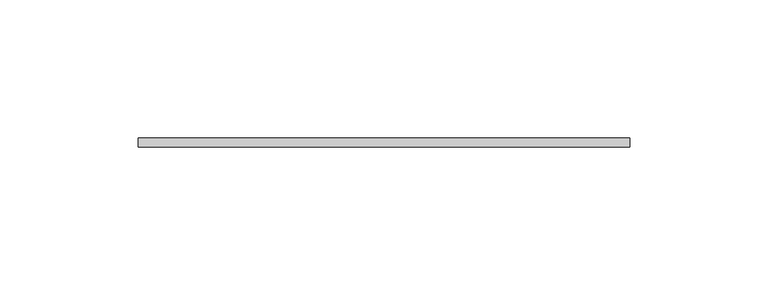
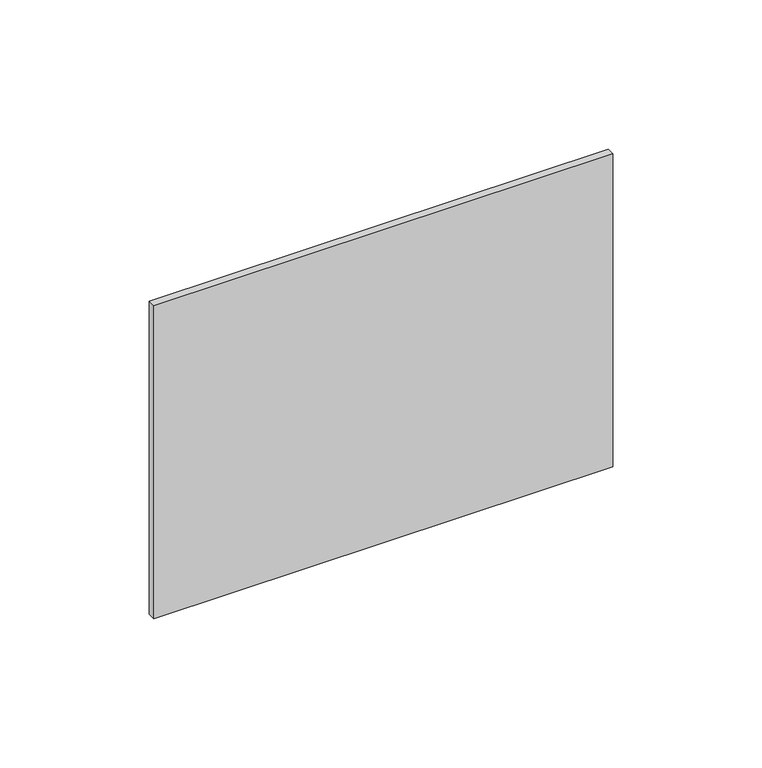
"""IFC4 building model written with IfcOpenShell, lengths in millimetres: proxy geometry, ASHLEY DUO AIR (VISUAL ONLY)."""

import ifcopenshell
import ifcopenshell.guid

model = None  # the IFC model being written
_history = None  # IfcOwnerHistory: only IFC2X3 demands one
_inside = {}  # id of a spatial element -> (the spatial element, [elements in it])
_under = {}  # id of a project, library or spatial element -> (it, [spatial elements below it])
_declared = {}  # id of a project -> (the project, [libraries it declares])
_typed = {}  # id of a type object -> (the type object, [elements of that type])
_made_of = {}  # id of a material, layer set ... -> (it, [elements and type objects made of it])


def new_model(schema):
    """Start an empty IFC model of exactly this schema.

    Asked for "IFC4X3", IfcOpenShell would pick the latest addendum, in which some entities
    have other attributes; the version numbers below select the first issue.
    IFC2X3 requires an IfcOwnerHistory on every rooted entity: one is made here for all.
    """
    global model, _history
    if schema == "IFC4X3":
        model = ifcopenshell.file(schema_version=(4, 3, 0, 0))
    else:
        model = ifcopenshell.file(schema=schema)
    _inside.clear()
    _under.clear()
    _declared.clear()
    _typed.clear()
    _made_of.clear()
    _history = None
    if model.schema == "IFC2X3":
        org = make("IfcOrganization", Name="unknown")
        user = make(
            "IfcPersonAndOrganization",
            ThePerson=make("IfcPerson", FamilyName="unknown"),
            TheOrganization=org,
        )
        app = make(
            "IfcApplication",
            ApplicationDeveloper=org,
            Version="unknown",
            ApplicationFullName="unknown",
            ApplicationIdentifier="unknown",
        )
        _history = make(
            "IfcOwnerHistory",
            OwningUser=user,
            OwningApplication=app,
            ChangeAction="ADDED",
            CreationDate=0,
        )
    return model


def make(cls, **values):
    """One entity of the class cls with the attributes given. An attribute that is None is left unset."""
    return model.create_entity(
        cls, **{name: value for name, value in values.items() if value is not None}
    )


def rooted(cls, **values):
    """An entity with a GlobalId (a new one), such as an element, a storey or a relation."""
    return make(cls, GlobalId=ifcopenshell.guid.new(), OwnerHistory=_history, **values)


def si_unit(unit_type, name, prefix=None):
    """IfcSIUnit, for example si_unit("LENGTHUNIT", "METRE", prefix="MILLI")."""
    return make("IfcSIUnit", UnitType=unit_type, Prefix=prefix, Name=name)


def assignment(units):
    """IfcUnitAssignment: the units of a project."""
    return None if units is None else make("IfcUnitAssignment", Units=units)


def point(xyz):
    """IfcCartesianPoint."""
    return None if xyz is None else make("IfcCartesianPoint", Coordinates=xyz)


def direction(xyz):
    """IfcDirection."""
    return None if xyz is None else make("IfcDirection", DirectionRatios=xyz)


def frame(location, z_axis=None, x_axis=None):
    """IfcAxis2Placement3D, a coordinate frame: its origin and axes. An axis left out is left unset."""
    return make(
        "IfcAxis2Placement3D",
        Location=point(location),
        Axis=direction(z_axis),
        RefDirection=direction(x_axis),
    )


def origin():
    """The frame at (0, 0, 0) with its axes left unset."""
    return frame((0.0, 0.0, 0.0))


def place(relative_to, where):
    """IfcLocalPlacement: puts the frame where relative to a parent placement (None: the world)."""
    return make(
        "IfcLocalPlacement", PlacementRelTo=relative_to, RelativePlacement=where
    )


def context(
    kind, dimensions, precision=None, world=None, true_north=None, identifier=None
):
    """IfcGeometricRepresentationContext, for example the 3D "Model" context."""
    return make(
        "IfcGeometricRepresentationContext",
        ContextIdentifier=identifier,
        ContextType=kind,
        CoordinateSpaceDimension=dimensions,
        Precision=precision,
        WorldCoordinateSystem=world,
        TrueNorth=true_north,
    )


def project(units=None, contexts=None):
    """IfcProject with its units and contexts."""
    return rooted(
        "IfcProject",
        Name="project",
        RepresentationContexts=contexts,
        UnitsInContext=assignment(units),
    )


def spatial(cls, under=None, at=None, **own):
    """A site, building, storey or space (cls), placed at a placement, below another one or the project."""
    s = rooted(cls, ObjectPlacement=at, **own)
    if under is not None:
        _under.setdefault(under.id(), (under, []))[1].append(s)
    return s


def polyline(points):
    """IfcPolyline through the points."""
    return make("IfcPolyline", Points=[point(p) for p in points])


def outline(outer, holes=None, kind="AREA"):
    """IfcArbitraryClosedProfileDef: a profile drawn as a closed curve; with holes, ...WithVoids."""
    if holes is None:
        return make("IfcArbitraryClosedProfileDef", ProfileType=kind, OuterCurve=outer)
    return make(
        "IfcArbitraryProfileDefWithVoids",
        ProfileType=kind,
        OuterCurve=outer,
        InnerCurves=holes,
    )


def extrude(swept, where, along, depth):
    """IfcExtrudedAreaSolid: the profile swept, set in the frame where, extruded along a direction by depth."""
    return make(
        "IfcExtrudedAreaSolid",
        SweptArea=swept,
        Position=where,
        ExtrudedDirection=direction(along),
        Depth=depth,
    )


def shape(context_of_items, identifier, shape_type, items):
    """IfcShapeRepresentation: the items that make up one representation, for example the "Body"."""
    return make(
        "IfcShapeRepresentation",
        ContextOfItems=context_of_items,
        RepresentationIdentifier=identifier,
        RepresentationType=shape_type,
        Items=items,
    )


def source(mapping_origin, context_of_items, identifier, shape_type, items):
    """IfcRepresentationMap: a shape defined once, which mapped items show again and again."""
    return make(
        "IfcRepresentationMap",
        MappingOrigin=mapping_origin,
        MappedRepresentation=shape(context_of_items, identifier, shape_type, items),
    )


def transform(
    local_origin,
    x_axis=None,
    y_axis=None,
    z_axis=None,
    scale=None,
    scale2=None,
    scale3=None,
    uniform=True,
):
    """IfcCartesianTransformationOperator3D, or its non-uniform kind. x_axis, y_axis, z_axis: its Axis1, 2, 3."""
    if uniform:
        return make(
            "IfcCartesianTransformationOperator3D",
            Axis1=direction(x_axis),
            Axis2=direction(y_axis),
            LocalOrigin=point(local_origin),
            Scale=scale,
            Axis3=direction(z_axis),
        )
    return make(
        "IfcCartesianTransformationOperator3DnonUniform",
        Axis1=direction(x_axis),
        Axis2=direction(y_axis),
        LocalOrigin=point(local_origin),
        Scale=scale,
        Axis3=direction(z_axis),
        Scale2=scale2,
        Scale3=scale3,
    )


def mapped(mapping_source, mapping_target):
    """IfcMappedItem: shows the shape of a source again, moved by a transform."""
    return make(
        "IfcMappedItem", MappingSource=mapping_source, MappingTarget=mapping_target
    )


def made_of(thing, what):
    """Note that an element or type object is made of a material, layer set ...; save() writes the relation."""
    if what is not None:
        _made_of.setdefault(what.id(), (what, []))[1].append(thing)
    return thing


def element(
    cls,
    number,
    at=None,
    inside=None,
    cuts=None,
    type_object=None,
    material=None,
    context=None,
    identifier="Body",
    shape_type=None,
    held_by="IfcProductDefinitionShape",
    body=None,
    shapes=None,
    **own,
):
    """One element of the class cls, such as IfcWall. Its Tag is "e" and its number.

    at: its placement. inside: the storey or other place that contains it. cuts: it is an
    opening in that element (IfcRelVoidsElement). A single representation is given by context,
    identifier, shape_type and body (its items); several are given by shapes. held_by: the class
    of the entity that holds the representations. save() writes the other relations.
    """
    e = rooted(cls, Tag="e%d" % number, ObjectPlacement=at, **own)
    if body is not None:
        shapes = [shape(context, identifier, shape_type, body)]
    if shapes is not None:
        e.Representation = make(held_by, Representations=shapes)
    if inside is not None:
        _inside.setdefault(inside.id(), (inside, []))[1].append(e)
    if cuts is not None:
        rooted(
            "IfcRelVoidsElement", RelatingBuildingElement=cuts, RelatedOpeningElement=e
        )
    if type_object is not None:
        _typed.setdefault(type_object.id(), (type_object, []))[1].append(e)
    return made_of(e, material)


def aggregate(whole, parts):
    """IfcRelAggregates: a whole, such as a stair, and the parts it consists of."""
    return rooted("IfcRelAggregates", RelatingObject=whole, RelatedObjects=parts)


def save(model, path):
    """Write the relations noted so far, then the file.

    IfcRelAggregates (storeys below a building ...), IfcRelContainedInSpatialStructure (elements
    in a storey), IfcRelDefinesByType, IfcRelAssociatesMaterial and IfcRelDeclares: one each for
    every whole, place, type object, material and project.
    """
    for whole, parts in _under.values():
        aggregate(whole, parts)
    for where, things in _inside.values():
        rooted(
            "IfcRelContainedInSpatialStructure",
            RelatedElements=things,
            RelatingStructure=where,
        )
    for kind, things in _typed.values():
        rooted("IfcRelDefinesByType", RelatedObjects=things, RelatingType=kind)
    for what, things in _made_of.values():
        rooted("IfcRelAssociatesMaterial", RelatedObjects=things, RelatingMaterial=what)
    for by, libraries in _declared.values():
        rooted("IfcRelDeclares", RelatingContext=by, RelatedDefinitions=libraries)
    model.write(path)


def generic_models_05568dbf(model_context):
    return source(origin(), model_context, "Body", "SweptSolid", [
        extrude(outline(polyline([(177.8, 0.0), (0.0, 0.0), (0.0, 3.175), (177.8, 3.175), (177.8, 0.0)])), frame((0.0, 0.0, -128.27), z_axis=(0.0, 0.0, 1.0), x_axis=(1.0, 0.0, 0.0)), (0.0, 0.0, 1.0), 128.27),
    ])


if __name__ == "__main__":
    model = new_model("IFC4")
    model_context = context("Model", 3, world=origin())
    ifc_project = project(units=[si_unit("LENGTHUNIT", "METRE", prefix="MILLI")], contexts=[model_context])
    site = spatial("IfcSite", under=ifc_project)
    building = spatial("IfcBuilding", under=site)
    placement = place(None, origin())
    generic_models_shape = generic_models_05568dbf(model_context)
    element("IfcBuildingElementProxy", 1, Name="ASHLEY DUO AIR (VISUAL ONLY)", ObjectType="ASHLEY DUO AIR (VISUAL ONLY)", at=placement, inside=building, context=model_context, shape_type="MappedRepresentation", body=[
        mapped(generic_models_shape, transform((0.0, 0.0, 0.0), x_axis=(1.0, 0.0, 0.0), y_axis=(0.0, 1.0, 0.0), z_axis=(0.0, 0.0, 1.0))),
    ])
    save(model, "model.ifc")
